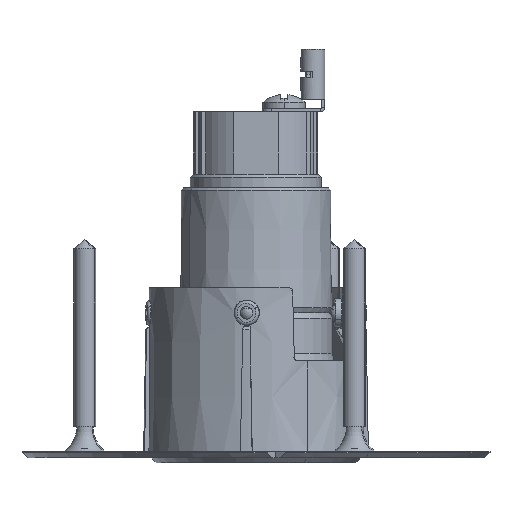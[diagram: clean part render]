
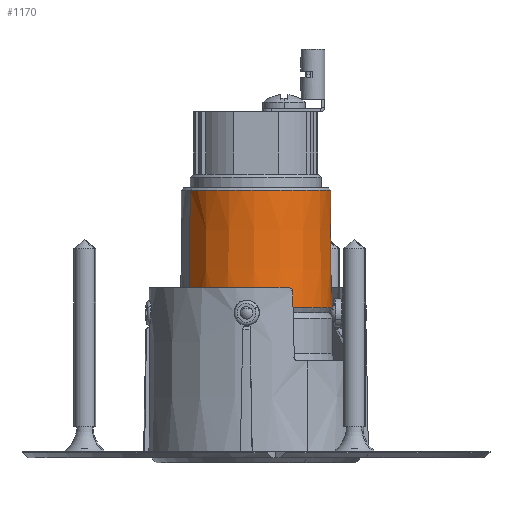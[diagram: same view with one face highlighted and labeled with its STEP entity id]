
A CAD part, left-side view. The second image highlights one B-rep face of the part: STEP entity #1170.
In plain terms, the highlighted conical face has half-angle 0.5 degrees and reference radius 12.085 mm.
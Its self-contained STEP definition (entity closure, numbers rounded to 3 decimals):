
#89=DIRECTION('',(0.004,-0.008,-1.));
#90=VECTOR('',#89,18.791);
#91=CARTESIAN_POINT('',(5.755,-10.534,43.6));
#92=LINE('',#91,#90);
#418=CARTESIAN_POINT('',(0.,0.,43.6));
#419=DIRECTION('',(0.,0.,-1.));
#420=DIRECTION('',(0.479,-0.878,0.));
#421=AXIS2_PLACEMENT_3D('',#418,#419,#420);
#423=CARTESIAN_POINT('',(0.,0.,24.81));
#424=DIRECTION('',(0.,0.,1.));
#425=DIRECTION('',(-0.479,0.878,0.));
#426=AXIS2_PLACEMENT_3D('',#423,#424,#425);
#428=DIRECTION('',(-0.004,0.008,-1.));
#429=VECTOR('',#428,18.791);
#430=CARTESIAN_POINT('',(-5.755,10.534,43.6));
#431=LINE('',#430,#429);
#515=CARTESIAN_POINT('',(5.833,-10.678,24.81));
#516=VERTEX_POINT('',#515);
#517=CARTESIAN_POINT('',(-5.833,10.678,24.81));
#518=VERTEX_POINT('',#517);
#527=CARTESIAN_POINT('',(-5.755,10.534,43.6));
#528=CARTESIAN_POINT('',(5.755,-10.534,43.6));
#529=VERTEX_POINT('',#527);
#530=VERTEX_POINT('',#528);
#1159=CARTESIAN_POINT('',(0.,0.,34.205));
#1160=DIRECTION('',(0.,0.,-1.));
#1161=DIRECTION('',(-0.479,0.878,0.));
#1162=AXIS2_PLACEMENT_3D('',#1159,#1160,#1161);
#1163=CONICAL_SURFACE('',#1162,12.085,0.5);
#1164=ORIENTED_EDGE('',*,*,#704,.F.);
#1165=ORIENTED_EDGE('',*,*,#675,.T.);
#1166=ORIENTED_EDGE('',*,*,#581,.F.);
#1167=ORIENTED_EDGE('',*,*,#672,.F.);
#1168=EDGE_LOOP('',(#1164,#1165,#1166,#1167));
#1169=FACE_OUTER_BOUND('',#1168,.F.);
#1170=ADVANCED_FACE('',(#1169),#1163,.T.);
#422=CIRCLE('',#421,12.003);
#427=CIRCLE('',#426,12.167);
#581=EDGE_CURVE('',#518,#516,#427,.T.);
#672=EDGE_CURVE('',#529,#518,#431,.T.);
#675=EDGE_CURVE('',#530,#516,#92,.T.);
#704=EDGE_CURVE('',#530,#529,#422,.T.);
